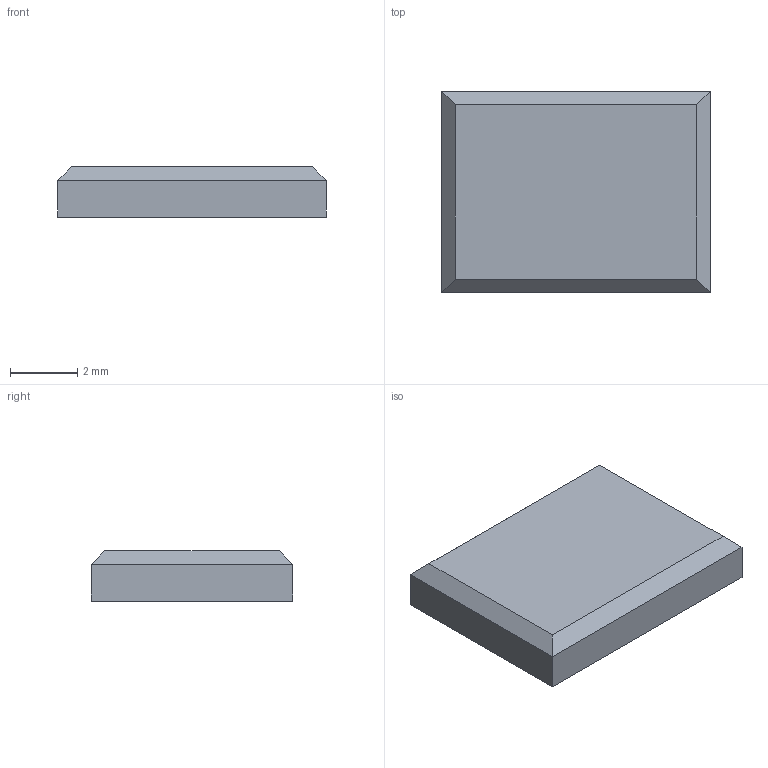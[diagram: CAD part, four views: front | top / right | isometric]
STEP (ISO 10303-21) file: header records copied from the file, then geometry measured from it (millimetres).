
FILE_DESCRIPTION(('FreeCAD Model'),'2;1');
FILE_NAME('Open CASCADE Shape Model','2026-10-30T13:26:09',('FreeCAD'),( 'FreeCAD'),'Open CASCADE STEP processor 7.8','FreeCAD','Unknown');
FILE_SCHEMA(('AUTOMOTIVE_DESIGN { 1 0 10303 214 1 1 1 1 }'));
Length unit declared in the file: millimetre
Products named in the file (1): Open CASCADE STEP translator 7.8 1
Bounding box: 8 x 6 x 1.5 mm (x, y, z)
Volume: 69.8 mm3; surface area: 131.2 mm2
Topology: 1 solids, 1 shells, 10 faces, 20 edges, 12 vertices
Faces by surface type: plane 10
Entity records: 262 total; most frequent: CARTESIAN_POINT 43, DIRECTION 42, ORIENTED_EDGE 40, EDGE_CURVE 20, LINE 20, VECTOR 20, VERTEX_POINT 12, AXIS2_PLACEMENT_3D 11
